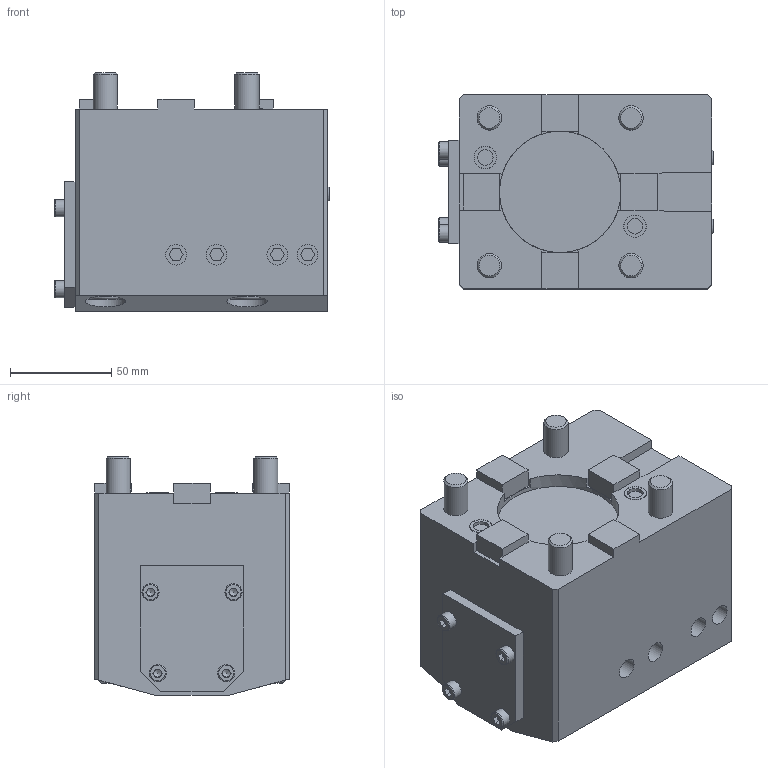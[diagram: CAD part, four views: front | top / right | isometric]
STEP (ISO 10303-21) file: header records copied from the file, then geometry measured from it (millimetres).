
FILE_DESCRIPTION(/* description */ (''),/* implementation_level */ '2;1');
FILE_NAME(/* name */ '197965-UNI',/* time_stamp */ '2022-01-11T07:52:20+01:00',/* author */ (''),/* organization */ (''),/* preprocessor_version */ 'ST-DEVELOPER v16.5',/* originating_system */ 'HiCAD 2017 2201.0 Build 268',/* authorisation */ '');
FILE_SCHEMA (('AUTOMOTIVE_DESIGN { 1 0 10303 214 1 1 1 1 }'));
Length unit declared in the file: millimetre
Products named in the file (2): Root; Teil
Assembly tree (1 placements, depth 2):
  Root
    Teil
Bounding box: 135.66 x 96 x 118 mm (x, y, z)
Volume: 1004392.5 mm3; surface area: 102135.2 mm2
Topology: 1 solids, 1 shells, 343 faces, 799 edges, 512 vertices
Faces by surface type: plane 260, cylinder 52, cone 21, torus 8, sphere 2
Full cylindrical faces by diameter (mm): 5 x2, 7.65 x2, 8.5 x12, 10.2 x16, 11.01 x2, 11.1 x2, 12 x4, 18 x4, 20 x4, 40 x1, 60 x1
Entity records: 15925 total; most frequent: CARTESIAN_POINT 1761, DIRECTION 1530, PRESENTATION_STYLE_ASSIGNMENT 1353, COLOUR_RGB 1353, DRAUGHTING_PRE_DEFINED_CURVE_FONT 1352, CURVE_STYLE 1352, OVER_RIDING_STYLED_ITEM 1352, ORIENTED_EDGE 1352
